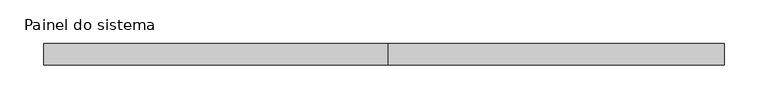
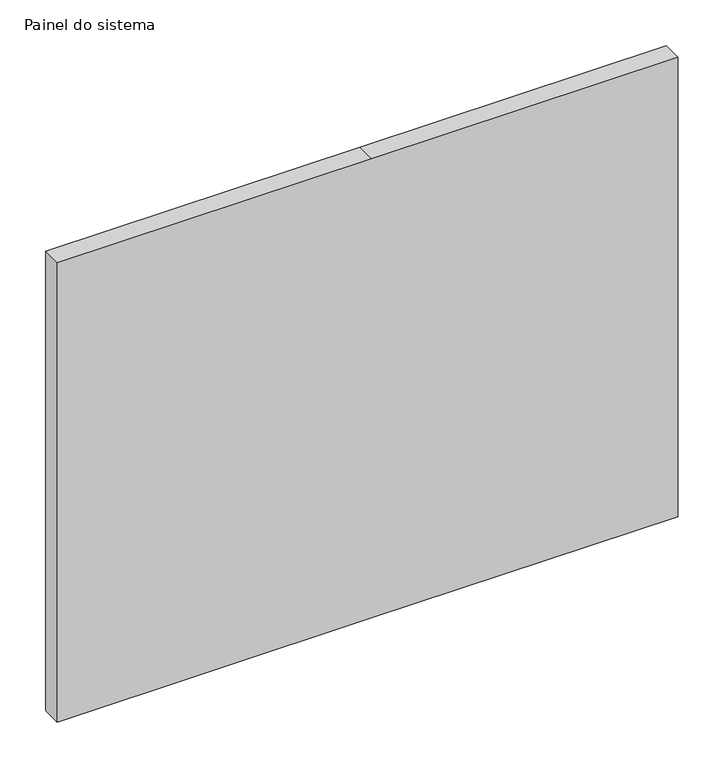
"""IFC4 building model written with IfcOpenShell, lengths in millimetres: plate geometry, Painel do sistema : Envidraçado."""

from ifc_helpers import new_model, si_unit, frame, origin, place, context, project, spatial, polyline, outline, extrude, source, transform, mapped, element, save


def painel_do_sistema_3b63ce42(model_context):
    return source(origin(), model_context, "Body", "SweptSolid", [
        extrude(outline(polyline([(0.0, -390.0), (0.0, 5.0), (0.0, 390.0), (610.0, 390.0), (610.0, 5.0), (610.0, -390.0), (0.0, -390.0)])), frame((0.0, 24.5, 0.0), z_axis=(0.0, 1.0, 0.0), x_axis=(0.0, 0.0, 1.0)), (0.0, 0.0, 1.0), 25.0),
    ])


if __name__ == "__main__":
    model = new_model("IFC4")
    model_context = context("Model", 3, world=origin())
    ifc_project = project(units=[si_unit("LENGTHUNIT", "METRE", prefix="MILLI")], contexts=[model_context])
    site = spatial("IfcSite", under=ifc_project)
    building = spatial("IfcBuilding", under=site)
    placement = place(None, origin())
    painel_do_sistema_shape = painel_do_sistema_3b63ce42(model_context)
    element("IfcPlate", 1, ObjectType="Painel do sistema : Envidraçado", at=placement, inside=building, context=model_context, shape_type="MappedRepresentation", body=[
        mapped(painel_do_sistema_shape, transform((0.0, 0.0, 0.0), x_axis=(1.0, 0.0, 0.0), y_axis=(0.0, 1.0, 0.0), z_axis=(0.0, 0.0, 1.0))),
    ])
    save(model, "model.ifc")
